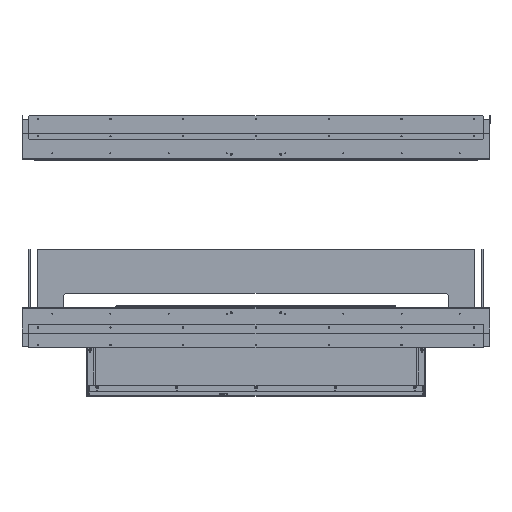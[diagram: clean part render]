
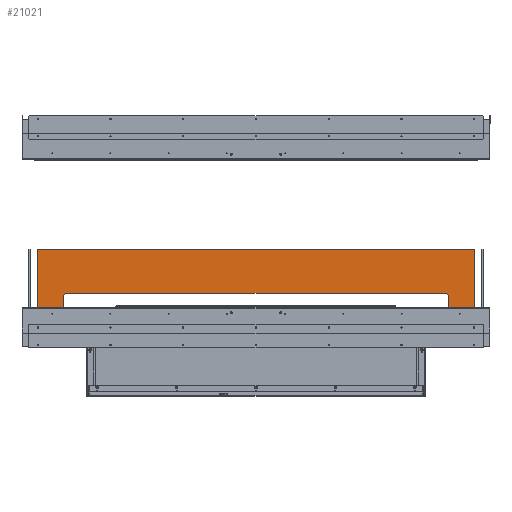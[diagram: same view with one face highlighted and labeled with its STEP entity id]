
A CAD part, front view. The second image highlights one B-rep face of the part: STEP entity #21021.
In plain terms, the highlighted planar face has unit normal (0, -1, 0) as drawn and (0, 0, 1) by its records, which use the part's own axes.
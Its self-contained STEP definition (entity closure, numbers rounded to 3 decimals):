
#162 = EDGE_CURVE ( 'NONE', #78241, #37796, #1932, .T. ) ;
#200 = DIRECTION ( 'NONE',  ( 1., 0., 0. ) ) ;
#1240 = DIRECTION ( 'NONE',  ( -1., 0., 0. ) ) ;
#1932 = LINE ( 'NONE', #62182, #42765 ) ;
#5392 = FACE_OUTER_BOUND ( 'NONE', #77478, .T. ) ;
#6981 = VECTOR ( 'NONE', #39911, 1000. ) ;
#8292 = ORIENTED_EDGE ( 'NONE', *, *, #162, .T. ) ;
#8774 = LINE ( 'NONE', #85014, #17454 ) ;
#9283 = CARTESIAN_POINT ( 'NONE',  ( -751., -250., 4. ) ) ;
#10551 = ORIENTED_EDGE ( 'NONE', *, *, #26587, .T. ) ;
#10920 = DIRECTION ( 'NONE',  ( 0., 0., -1. ) ) ;
#11198 = DIRECTION ( 'NONE',  ( 1., 0., 0. ) ) ;
#12166 = AXIS2_PLACEMENT_3D ( 'NONE', #79622, #10920, #41543 ) ;
#12918 = DIRECTION ( 'NONE',  ( 0., 0., 1. ) ) ;
#13495 = ORIENTED_EDGE ( 'NONE', *, *, #31963, .T. ) ;
#13740 = CARTESIAN_POINT ( 'NONE',  ( 751., -1., 4. ) ) ;
#14415 = PLANE ( 'NONE',  #77261 ) ;
#17454 = VECTOR ( 'NONE', #53489, 1000. ) ;
#18350 = EDGE_CURVE ( 'NONE', #86436, #29388, #33574, .T. ) ;
#18966 = CARTESIAN_POINT ( 'NONE',  ( 751., -249., 4. ) ) ;
#21021 = ADVANCED_FACE ( 'NONE', ( #5392 ), #14415, .T. ) ;
#22138 = ORIENTED_EDGE ( 'NONE', *, *, #29831, .T. ) ;
#22515 = VECTOR ( 'NONE', #1240, 1000. ) ;
#24525 = CARTESIAN_POINT ( 'NONE',  ( 647., -150., 4. ) ) ;
#24754 = CARTESIAN_POINT ( 'NONE',  ( 647., -165., 4. ) ) ;
#26587 = EDGE_CURVE ( 'NONE', #71577, #92736, #90649, .T. ) ;
#29388 = VERTEX_POINT ( 'NONE', #78095 ) ;
#29831 = EDGE_CURVE ( 'NONE', #89872, #78241, #8774, .T. ) ;
#30064 = ORIENTED_EDGE ( 'NONE', *, *, #18350, .T. ) ;
#31396 = CARTESIAN_POINT ( 'NONE',  ( -662., -165., 4. ) ) ;
#31780 = ORIENTED_EDGE ( 'NONE', *, *, #33731, .T. ) ;
#31963 = EDGE_CURVE ( 'NONE', #65636, #71577, #46393, .T. ) ;
#33574 = CIRCLE ( 'NONE', #71967, 15. ) ;
#33731 = EDGE_CURVE ( 'NONE', #66487, #86436, #80384, .T. ) ;
#34001 = EDGE_CURVE ( 'NONE', #29388, #65636, #83873, .T. ) ;
#35540 = CARTESIAN_POINT ( 'NONE',  ( 751., 0., 4. ) ) ;
#37796 = VERTEX_POINT ( 'NONE', #31396 ) ;
#39098 = DIRECTION ( 'NONE',  ( 0., 1., 0. ) ) ;
#39642 = VERTEX_POINT ( 'NONE', #42240 ) ;
#39911 = DIRECTION ( 'NONE',  ( 0., -1., 0. ) ) ;
#41543 = DIRECTION ( 'NONE',  ( -1., 0., 0. ) ) ;
#42240 = CARTESIAN_POINT ( 'NONE',  ( -751., -1., 4. ) ) ;
#42765 = VECTOR ( 'NONE', #39098, 1000. ) ;
#45044 = DIRECTION ( 'NONE',  ( 1., 0., 0. ) ) ;
#46393 = LINE ( 'NONE', #59465, #78621 ) ;
#46938 = ORIENTED_EDGE ( 'NONE', *, *, #77695, .T. ) ;
#48938 = CARTESIAN_POINT ( 'NONE',  ( -751., -249., 4. ) ) ;
#50236 = VECTOR ( 'NONE', #11198, 1000. ) ;
#50456 = EDGE_CURVE ( 'NONE', #39642, #89872, #62490, .T. ) ;
#53489 = DIRECTION ( 'NONE',  ( 1., 0., 0. ) ) ;
#54381 = DIRECTION ( 'NONE',  ( 1., 0., 0. ) ) ;
#54880 = DIRECTION ( 'NONE',  ( 0., 0., -1. ) ) ;
#56887 = CARTESIAN_POINT ( 'NONE',  ( 647., -150., 4. ) ) ;
#57149 = VECTOR ( 'NONE', #96703, 1000. ) ;
#59465 = CARTESIAN_POINT ( 'NONE',  ( 752., -249., 4. ) ) ;
#61057 = ORIENTED_EDGE ( 'NONE', *, *, #34001, .T. ) ;
#61813 = CARTESIAN_POINT ( 'NONE',  ( -647., -150., 4. ) ) ;
#62182 = CARTESIAN_POINT ( 'NONE',  ( -662., -165., 4. ) ) ;
#62323 = CARTESIAN_POINT ( 'NONE',  ( 662., -250., 4. ) ) ;
#62490 = LINE ( 'NONE', #9283, #6981 ) ;
#65636 = VERTEX_POINT ( 'NONE', #82229 ) ;
#66487 = VERTEX_POINT ( 'NONE', #61813 ) ;
#67832 = DIRECTION ( 'NONE',  ( 0., -1., 0. ) ) ;
#68541 = ORIENTED_EDGE ( 'NONE', *, *, #50456, .T. ) ;
#71447 = CIRCLE ( 'NONE', #12166, 15. ) ;
#71577 = VERTEX_POINT ( 'NONE', #18966 ) ;
#71613 = ORIENTED_EDGE ( 'NONE', *, *, #91358, .T. ) ;
#71967 = AXIS2_PLACEMENT_3D ( 'NONE', #24754, #54880, #54381 ) ;
#76488 = CARTESIAN_POINT ( 'NONE',  ( -752., -1., 4. ) ) ;
#77261 = AXIS2_PLACEMENT_3D ( 'NONE', #91121, #12918, #45044 ) ;
#77478 = EDGE_LOOP ( 'NONE', ( #61057, #13495, #10551, #46938, #68541, #22138, #8292, #71613, #31780, #30064 ) ) ;
#77695 = EDGE_CURVE ( 'NONE', #92736, #39642, #84523, .T. ) ;
#78095 = CARTESIAN_POINT ( 'NONE',  ( 662., -165., 4. ) ) ;
#78241 = VERTEX_POINT ( 'NONE', #79314 ) ;
#78621 = VECTOR ( 'NONE', #200, 1000. ) ;
#79314 = CARTESIAN_POINT ( 'NONE',  ( -662., -249., 4. ) ) ;
#79622 = CARTESIAN_POINT ( 'NONE',  ( -647., -165., 4. ) ) ;
#80384 = LINE ( 'NONE', #56887, #50236 ) ;
#82229 = CARTESIAN_POINT ( 'NONE',  ( 662., -249., 4. ) ) ;
#83873 = LINE ( 'NONE', #62323, #93294 ) ;
#84523 = LINE ( 'NONE', #76488, #22515 ) ;
#85014 = CARTESIAN_POINT ( 'NONE',  ( -662., -249., 4. ) ) ;
#86436 = VERTEX_POINT ( 'NONE', #24525 ) ;
#89872 = VERTEX_POINT ( 'NONE', #48938 ) ;
#90649 = LINE ( 'NONE', #35540, #57149 ) ;
#91121 = CARTESIAN_POINT ( 'NONE',  ( 647., -165., 4. ) ) ;
#91358 = EDGE_CURVE ( 'NONE', #37796, #66487, #71447, .T. ) ;
#92736 = VERTEX_POINT ( 'NONE', #13740 ) ;
#93294 = VECTOR ( 'NONE', #67832, 1000. ) ;
#96703 = DIRECTION ( 'NONE',  ( 0., 1., 0. ) ) ;
